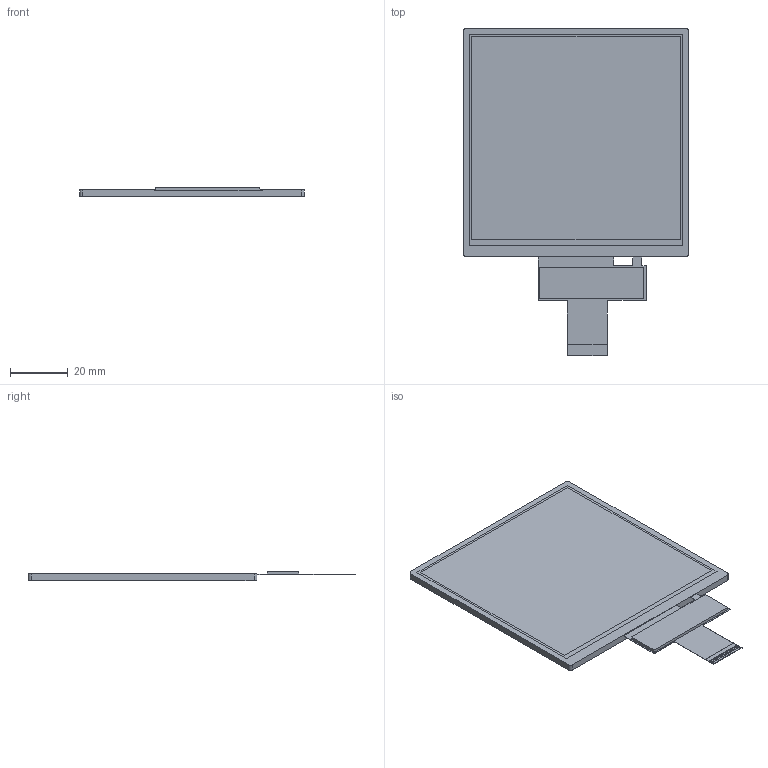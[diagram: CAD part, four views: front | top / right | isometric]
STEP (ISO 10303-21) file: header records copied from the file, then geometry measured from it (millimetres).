
FILE_DESCRIPTION (( 'STEP AP214' ), '1' );
FILE_NAME ('CFAF480480A0-040TN.STEP', '2020-11-11T16:17:44', ( '' ), ( '' ), 'SwSTEP 2.0', 'SolidWorks 2020', '' );
FILE_SCHEMA (( 'AUTOMOTIVE_DESIGN' ));
Length unit declared in the file: millimetre
Products named in the file (1): CFAF480480A0-040TN
Bounding box: 77.66 x 113.09 x 3.12 mm (x, y, z)
Volume: 14560.9 mm3; surface area: 15632.2 mm2
Topology: 49 solids, 49 shells, 620 faces, 1568 edges, 1048 vertices
Faces by surface type: plane 610, cylinder 10
Entity records: 25300 total; most frequent: CARTESIAN_POINT 3237, ORIENTED_EDGE 3136, DIRECTION 2830, EDGE_CURVE 1568, LINE 1548, VECTOR 1548, VERTEX_POINT 1048, UNCERTAINTY_MEASURE_WITH_UNIT 649
